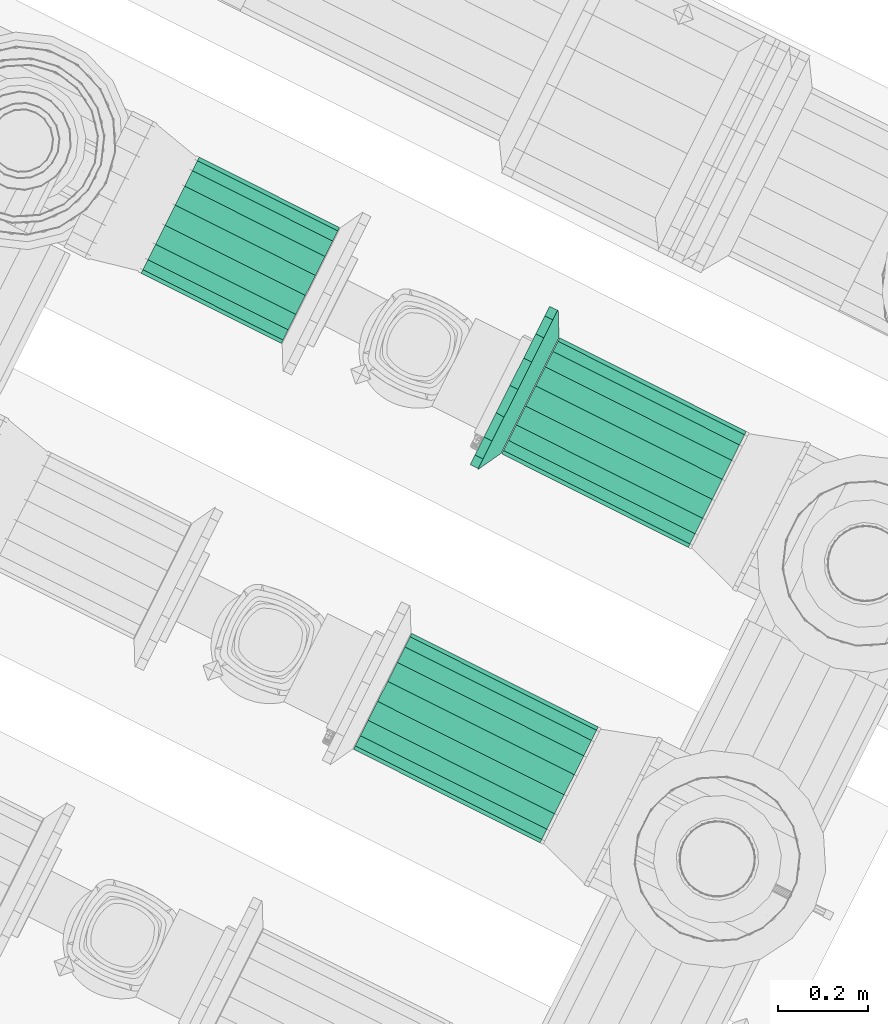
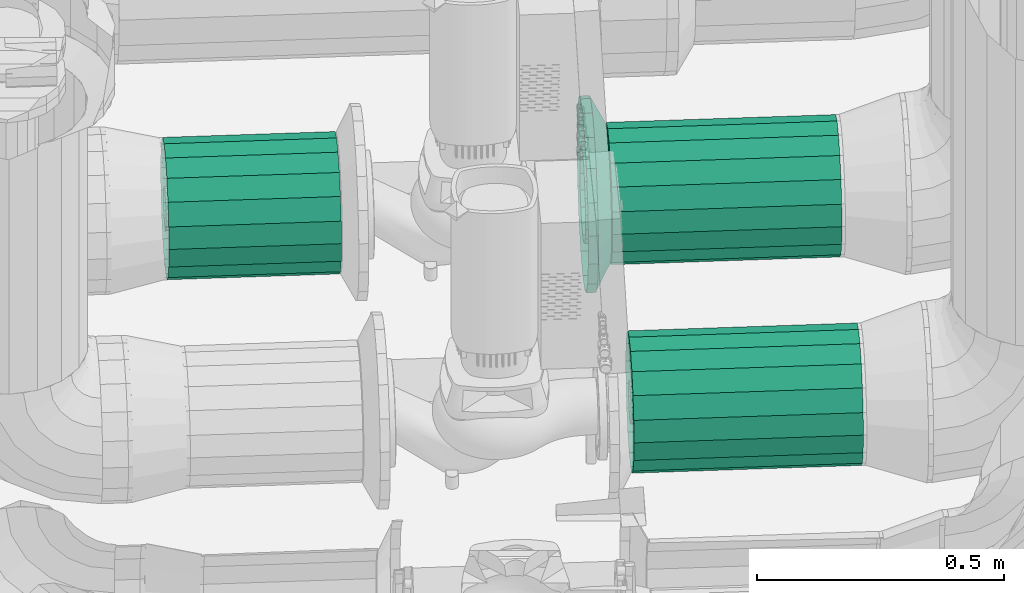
# One storey, part 111 of 152: 3 flow segments, 1 flow fitting.
"""IFC2X3 building model written with IfcOpenShell, lengths in metres."""

from ifc_helpers import new_model, si_unit, derived_unit, direction, frame, origin, place, context, subcontext, project, spatial, face_set, surface_model, source, transform, mapped, material, type_object, type_shapes, element, save


model = new_model("IFC2X3")

# Units and contexts
model_context = context("Model", 3, precision=5.2338327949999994e-05, world=origin(), true_north=direction((0.0, 1.0)))
body_context = subcontext(model_context, "Body", "Model", "MODEL_VIEW")
ifc_project = project(units=[si_unit("LENGTHUNIT", "METRE"), si_unit("AREAUNIT", "SQUARE_METRE"), si_unit("VOLUMEUNIT", "CUBIC_METRE"), si_unit("MASSUNIT", "GRAM", prefix="KILO"), si_unit("PLANEANGLEUNIT", "RADIAN"), derived_unit("THERMALTRANSMITTANCEUNIT", [(si_unit("MASSUNIT", "GRAM", prefix="KILO"), 1), (si_unit("THERMODYNAMICTEMPERATUREUNIT", "KELVIN"), -1), (si_unit("TIMEUNIT", "SECOND"), -3)])], contexts=[model_context])

# Site, building, storey
site_placement = place(None, frame((0.0, 0.0, 0.0), z_axis=(0.0, 0.0, 1.0), x_axis=(0.8939966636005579, -0.4480736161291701, 0.0)))
site = spatial("IfcSite", under=ifc_project, at=site_placement, Name="Default", CompositionType="ELEMENT")
building_placement = place(site_placement, origin())
building = spatial("IfcBuilding", under=site, at=building_placement, CompositionType="ELEMENT")
storey_placement = place(building_placement, frame((0.0, 0.0, 2.7499999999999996)))
storey = spatial("IfcBuildingStorey", under=building, at=storey_placement, Name="1. Obergeschoss", CompositionType="ELEMENT", Elevation=2.7499999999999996)

# Flow segments
ifc_material_1 = material(Name="IfcSurfaceStyle #9317")
distribution_element_type_1 = type_object("IfcDistributionElementType", Name="Stahlrohr nach DIN 2448 221398:Stahlrohr nach DIN 2448 221398", material=ifc_material_1)
shared_shape_1 = source(origin(), body_context, "Body", "SurfaceModel", [
    surface_model("IfcFaceBasedSurfaceModel", [(11.356814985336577, 6.547298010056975, 3.325154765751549), (11.356814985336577, 6.549978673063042, 3.3403575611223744), (10.892519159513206, 6.549978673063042, 3.3403575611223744), (10.892519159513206, 6.547298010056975, 3.325154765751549), (11.356814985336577, 6.557697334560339, 3.3537266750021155), (10.892519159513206, 6.557697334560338, 3.353726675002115), (11.356814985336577, 6.569523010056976, 3.363649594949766), (10.892519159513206, 6.569523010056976, 3.363649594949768), (11.356814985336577, 6.584029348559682, 3.368929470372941), (10.892519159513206, 6.58402934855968, 3.368929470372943), (11.356814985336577, 6.599466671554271, 3.36892947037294), (10.892519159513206, 6.5994666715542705, 3.3689294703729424), (11.356814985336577, 6.613973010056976, 3.363649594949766), (10.892519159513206, 6.613973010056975, 3.3636495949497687), (11.356814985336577, 6.6257986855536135, 3.3537266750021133), (10.892519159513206, 6.6257986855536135, 3.353726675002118), (11.356814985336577, 6.633517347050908, 3.340357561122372), (10.892519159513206, 6.633517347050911, 3.340357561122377), (11.356814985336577, 6.636198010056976, 3.3251547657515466), (10.892519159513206, 6.636198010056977, 3.3251547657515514), (11.356814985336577, 6.633517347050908, 3.309951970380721), (10.892519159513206, 6.633517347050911, 3.309951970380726), (11.356814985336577, 6.625798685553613, 3.29658285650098), (10.892519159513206, 6.625798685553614, 3.2965828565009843), (11.356814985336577, 6.613973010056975, 3.2866599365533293), (10.892519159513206, 6.613973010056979, 3.2866599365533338), (11.356814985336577, 6.599466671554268, 3.2813800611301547), (10.892519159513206, 6.599466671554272, 3.2813800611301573), (11.356814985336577, 6.584029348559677, 3.2813800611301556), (10.892519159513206, 6.584029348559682, 3.281380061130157), (11.356814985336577, 6.569523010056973, 3.28665993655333), (10.892519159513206, 6.569523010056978, 3.286659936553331), (11.356814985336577, 6.557697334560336, 3.2965828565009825), (10.892519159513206, 6.557697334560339, 3.2965828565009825), (11.356814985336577, 6.549978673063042, 3.309951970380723), (10.892519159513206, 6.549978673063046, 3.309951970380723), (11.356814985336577, 6.447298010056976, 3.325154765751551), (11.356814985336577, 6.456009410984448, 3.374559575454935), (10.892519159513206, 6.456009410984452, 3.374559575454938), (10.892519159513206, 6.447298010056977, 3.3251547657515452), (11.356814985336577, 6.481092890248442, 3.41800543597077), (10.892519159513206, 6.481092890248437, 3.418005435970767), (11.356814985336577, 6.519523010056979, 3.4502521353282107), (10.892519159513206, 6.519523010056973, 3.450252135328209), (11.356814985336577, 6.56666453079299, 3.467410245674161), (10.892519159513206, 6.566664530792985, 3.4674102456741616), (11.356814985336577, 6.616831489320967, 3.4674102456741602), (10.892519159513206, 6.616831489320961, 3.4674102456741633), (11.356814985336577, 6.663973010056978, 3.4502521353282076), (10.892519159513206, 6.6639730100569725, 3.450252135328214), (11.356814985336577, 6.702403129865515, 3.4180054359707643), (10.892519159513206, 6.702403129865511, 3.4180054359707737), (11.356814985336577, 6.727486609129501, 3.3745595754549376), (10.892519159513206, 6.7274866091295, 3.374559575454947), (11.356814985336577, 6.736198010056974, 3.3251547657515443), (10.892519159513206, 6.736198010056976, 3.3251547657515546), (11.356814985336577, 6.727486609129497, 3.275749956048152), (10.892519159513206, 6.7274866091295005, 3.275749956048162), (11.356814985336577, 6.702403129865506, 3.2323040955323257), (10.892519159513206, 6.702403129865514, 3.2323040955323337), (11.356814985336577, 6.663973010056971, 3.2000573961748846), (10.892519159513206, 6.663973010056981, 3.2000573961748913), (11.356814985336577, 6.616831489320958, 3.1828992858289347), (10.892519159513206, 6.616831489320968, 3.1828992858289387), (11.356814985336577, 6.566664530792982, 3.182899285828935), (10.892519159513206, 6.566664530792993, 3.182899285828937), (11.356814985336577, 6.519523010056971, 3.2000573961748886), (10.892519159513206, 6.5195230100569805, 3.2000573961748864), (11.356814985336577, 6.481092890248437, 3.2323040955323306), (10.892519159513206, 6.481092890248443, 3.232304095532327), (11.356814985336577, 6.456009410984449, 3.275749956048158), (10.892519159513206, 6.456009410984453, 3.2757499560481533)], [face_set([[[0, 1, 2, 3]], [[1, 4, 5, 2]], [[4, 6, 7, 5]], [[6, 8, 9, 7]], [[8, 10, 11, 9]], [[10, 12, 13, 11]], [[12, 14, 15, 13]], [[14, 16, 17, 15]], [[16, 18, 19, 17]], [[18, 20, 21, 19]], [[20, 22, 23, 21]], [[22, 24, 25, 23]], [[24, 26, 27, 25]], [[26, 28, 29, 27]], [[28, 30, 31, 29]], [[30, 32, 33, 31]], [[32, 34, 35, 33]], [[34, 0, 3, 35]], [[36, 37, 38, 39]], [[37, 40, 41, 38]], [[40, 42, 43, 41]], [[42, 44, 45, 43]], [[44, 46, 47, 45]], [[46, 48, 49, 47]], [[48, 50, 51, 49]], [[50, 52, 53, 51]], [[52, 54, 55, 53]], [[54, 56, 57, 55]], [[56, 58, 59, 57]], [[58, 60, 61, 59]], [[60, 62, 63, 61]], [[62, 64, 65, 63]], [[64, 66, 67, 65]], [[66, 68, 69, 67]], [[68, 70, 71, 69]], [[70, 36, 39, 71]]])]),
])
type_shapes(distribution_element_type_1, [shared_shape_1])
flow_segment_1_placement = place(storey_placement, frame((0.0, 0.0, -2.7499999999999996)))
element("IfcFlowSegment", 1, at=flow_segment_1_placement, inside=storey, type_object=distribution_element_type_1, material=ifc_material_1, Name="Stahlrohr nach DIN 2448", ObjectType="Stahlrohr nach DIN 2448", context=body_context, shape_type="MappedRepresentation", body=[
    mapped(shared_shape_1, transform((0.0, 0.0, 0.0), scale=1.0)),
])
distribution_element_type_2 = type_object("IfcDistributionElementType", Name="Stahlrohr nach DIN 2448 221448:Stahlrohr nach DIN 2448 221448", material=ifc_material_1)
shared_shape_2 = source(origin(), body_context, "Body", "SurfaceModel", [
    surface_model("IfcFaceBasedSurfaceModel", [(9.994770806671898, 7.371658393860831, 3.325154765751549), (9.994770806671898, 7.368977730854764, 3.3403575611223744), (10.343925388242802, 7.368977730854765, 3.3403575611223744), (10.343925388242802, 7.371658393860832, 3.325154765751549), (9.994770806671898, 7.361259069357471, 3.3537266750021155), (10.343925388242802, 7.361259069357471, 3.3537266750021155), (9.994770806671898, 7.349433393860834, 3.3636495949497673), (10.343925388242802, 7.349433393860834, 3.3636495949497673), (9.994770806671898, 7.334927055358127, 3.368929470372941), (10.343925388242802, 7.334927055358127, 3.368929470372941), (9.994770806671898, 7.319489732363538, 3.368929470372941), (10.343925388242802, 7.319489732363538, 3.368929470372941), (9.994770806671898, 7.304983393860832, 3.3636495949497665), (10.343925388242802, 7.304983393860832, 3.3636495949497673), (9.994770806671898, 7.293157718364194, 3.3537266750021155), (10.343925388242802, 7.293157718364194, 3.3537266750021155), (9.994770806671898, 7.2854390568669, 3.3403575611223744), (10.343925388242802, 7.2854390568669, 3.3403575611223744), (9.994770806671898, 7.282758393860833, 3.325154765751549), (10.343925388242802, 7.282758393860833, 3.325154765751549), (9.994770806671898, 7.285439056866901, 3.3099519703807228), (10.343925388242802, 7.2854390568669, 3.309951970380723), (9.994770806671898, 7.293157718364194, 3.296582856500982), (10.343925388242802, 7.293157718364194, 3.296582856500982), (9.994770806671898, 7.304983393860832, 3.2866599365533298), (10.343925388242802, 7.304983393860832, 3.2866599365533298), (9.994770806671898, 7.319489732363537, 3.2813800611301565), (10.343925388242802, 7.319489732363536, 3.281380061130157), (9.994770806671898, 7.334927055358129, 3.2813800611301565), (10.343925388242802, 7.334927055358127, 3.2813800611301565), (9.994770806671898, 7.349433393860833, 3.28665993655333), (10.343925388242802, 7.349433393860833, 3.28665993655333), (9.994770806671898, 7.361259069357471, 3.296582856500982), (10.343925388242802, 7.361259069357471, 3.296582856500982), (9.994770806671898, 7.368977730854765, 3.3099519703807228), (10.343925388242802, 7.368977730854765, 3.3099519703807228), (9.994770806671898, 7.471658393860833, 3.325154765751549), (9.994770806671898, 7.46294699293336, 3.3745595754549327), (10.343925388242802, 7.4629469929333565, 3.3745595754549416), (10.343925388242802, 7.471658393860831, 3.325154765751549), (9.994770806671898, 7.437863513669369, 3.4180054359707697), (10.343925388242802, 7.437863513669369, 3.4180054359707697), (9.994770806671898, 7.399433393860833, 3.4502521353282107), (10.343925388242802, 7.399433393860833, 3.4502521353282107), (9.994770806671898, 7.3522918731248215, 3.4674102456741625), (10.343925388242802, 7.3522918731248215, 3.4674102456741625), (9.994770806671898, 7.302124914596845, 3.4674102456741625), (10.343925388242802, 7.302124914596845, 3.4674102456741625), (9.994770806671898, 7.254983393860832, 3.4502521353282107), (10.343925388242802, 7.254983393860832, 3.4502521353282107), (9.994770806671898, 7.216553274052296, 3.4180054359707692), (10.343925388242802, 7.216553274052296, 3.4180054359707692), (9.994770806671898, 7.191469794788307, 3.3745595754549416), (10.343925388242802, 7.191469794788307, 3.3745595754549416), (9.994770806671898, 7.182758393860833, 3.325154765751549), (10.343925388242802, 7.182758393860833, 3.325154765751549), (9.994770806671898, 7.191469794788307, 3.2757499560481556), (10.343925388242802, 7.191469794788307, 3.2757499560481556), (9.994770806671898, 7.216553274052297, 3.232304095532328), (10.343925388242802, 7.216553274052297, 3.232304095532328), (9.994770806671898, 7.254983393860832, 3.200057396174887), (10.343925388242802, 7.254983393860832, 3.200057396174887), (9.994770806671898, 7.3021249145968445, 3.182899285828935), (10.343925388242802, 7.3021249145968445, 3.182899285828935), (9.994770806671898, 7.352291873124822, 3.182899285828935), (10.343925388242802, 7.352291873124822, 3.182899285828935), (9.994770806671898, 7.399433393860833, 3.200057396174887), (10.343925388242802, 7.399433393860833, 3.200057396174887), (9.994770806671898, 7.43786351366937, 3.232304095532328), (10.343925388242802, 7.43786351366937, 3.232304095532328), (9.994770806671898, 7.462946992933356, 3.2757499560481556), (10.343925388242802, 7.462946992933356, 3.2757499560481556)], [face_set([[[0, 1, 2, 3]], [[1, 4, 5, 2]], [[4, 6, 7, 5]], [[6, 8, 9, 7]], [[8, 10, 11, 9]], [[10, 12, 13, 11]], [[12, 14, 15, 13]], [[14, 16, 17, 15]], [[16, 18, 19, 17]], [[18, 20, 21, 19]], [[20, 22, 23, 21]], [[22, 24, 25, 23]], [[24, 26, 27, 25]], [[26, 28, 29, 27]], [[28, 30, 31, 29]], [[30, 32, 33, 31]], [[32, 34, 35, 33]], [[34, 0, 3, 35]], [[36, 37, 38, 39]], [[37, 40, 41, 38]], [[40, 42, 43, 41]], [[42, 44, 45, 43]], [[44, 46, 47, 45]], [[46, 48, 49, 47]], [[48, 50, 51, 49]], [[50, 52, 53, 51]], [[52, 54, 55, 53]], [[54, 56, 57, 55]], [[56, 58, 59, 57]], [[58, 60, 61, 59]], [[60, 62, 63, 61]], [[62, 64, 65, 63]], [[64, 66, 67, 65]], [[66, 68, 69, 67]], [[68, 70, 71, 69]], [[70, 36, 39, 71]]])]),
])
type_shapes(distribution_element_type_2, [shared_shape_2])
flow_segment_2_placement = place(storey_placement, frame((0.0, 0.0, -2.7499999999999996)))
element("IfcFlowSegment", 2, at=flow_segment_2_placement, inside=storey, type_object=distribution_element_type_2, material=ifc_material_1, Name="Stahlrohr nach DIN 2448", ObjectType="Stahlrohr nach DIN 2448", context=body_context, shape_type="MappedRepresentation", body=[
    mapped(shared_shape_2, transform((0.0, 0.0, 0.0), scale=1.0)),
])

# Flow fitting
ifc_material_2 = material(Name="IfcSurfaceStyle #221345")
distribution_element_type_3 = type_object("IfcDistributionElementType", Name="Flansch 221586:Flansch 221586", material=ifc_material_2)
shared_shape_3 = source(origin(), body_context, "Body", "SurfaceModel", [
    surface_model("IfcFaceBasedSurfaceModel", [(10.840519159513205, 7.3272083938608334, 3.2251547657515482), (10.840519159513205, 7.361410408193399, 3.2311855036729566), (10.860519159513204, 7.361410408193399, 3.2311855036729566), (10.860519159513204, 7.3272083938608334, 3.2251547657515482), (10.840519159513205, 7.391487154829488, 3.2485503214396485), (10.860519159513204, 7.391487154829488, 3.2485503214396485), (10.840519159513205, 7.4138109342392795, 3.2751547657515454), (10.860519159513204, 7.4138109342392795, 3.2751547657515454), (10.840519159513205, 7.425689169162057, 3.3077899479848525), (10.860519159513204, 7.425689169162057, 3.3077899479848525), (10.840519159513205, 7.425689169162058, 3.3425195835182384), (10.860519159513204, 7.425689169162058, 3.3425195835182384), (10.840519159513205, 7.41381093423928, 3.375154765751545), (10.860519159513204, 7.41381093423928, 3.375154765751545), (10.840519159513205, 7.391487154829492, 3.401759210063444), (10.860519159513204, 7.391487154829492, 3.401759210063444), (10.840519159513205, 7.361410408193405, 3.4191240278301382), (10.860519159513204, 7.361410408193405, 3.4191240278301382), (10.840519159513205, 7.32720839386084, 3.4251547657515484), (10.860519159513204, 7.32720839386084, 3.4251547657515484), (10.840519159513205, 7.293006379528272, 3.419124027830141), (10.860519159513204, 7.293006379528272, 3.419124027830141), (10.840519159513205, 7.262929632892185, 3.4017592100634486), (10.860519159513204, 7.262929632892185, 3.4017592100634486), (10.840519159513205, 7.240605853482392, 3.375154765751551), (10.860519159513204, 7.240605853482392, 3.375154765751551), (10.840519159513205, 7.228727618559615, 3.342519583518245), (10.860519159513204, 7.228727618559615, 3.342519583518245), (10.840519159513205, 7.228727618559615, 3.307789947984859), (10.860519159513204, 7.228727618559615, 3.307789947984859), (10.840519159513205, 7.240605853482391, 3.2751547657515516), (10.860519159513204, 7.240605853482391, 3.2751547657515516), (10.840519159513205, 7.262929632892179, 3.248550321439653), (10.860519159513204, 7.262929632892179, 3.248550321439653), (10.840519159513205, 7.293006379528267, 3.231185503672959), (10.860519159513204, 7.293006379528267, 3.231185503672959), (10.860519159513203, 7.327208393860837, 3.325154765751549), (10.860519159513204, 7.274708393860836, 3.3251547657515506), (10.860519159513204, 7.277874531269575, 3.3071987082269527), (10.890519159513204, 7.285439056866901, 3.3099519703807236), (10.890519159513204, 7.282758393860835, 3.3251547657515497), (10.860519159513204, 7.286991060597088, 3.2914084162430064), (10.890519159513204, 7.293157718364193, 3.2965828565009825), (10.860519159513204, 7.300958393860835, 3.279688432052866), (10.890519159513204, 7.304983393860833, 3.28665993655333), (10.860519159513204, 7.318091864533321, 3.273452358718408), (10.890519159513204, 7.3194897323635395, 3.2813800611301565), (10.860519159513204, 7.3363249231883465, 3.273452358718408), (10.890519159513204, 7.33492705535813, 3.2813800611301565), (10.860519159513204, 7.353458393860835, 3.2796884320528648), (10.890519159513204, 7.349433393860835, 3.2866599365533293), (10.860519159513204, 7.367425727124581, 3.2914084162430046), (10.890519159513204, 7.361259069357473, 3.2965828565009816), (10.860519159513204, 7.376542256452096, 3.30719870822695), (10.890519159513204, 7.368977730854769, 3.309951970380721), (10.860519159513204, 7.379708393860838, 3.3251547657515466), (10.890519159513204, 7.3716583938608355, 3.3251547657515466), (10.860519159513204, 7.376542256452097, 3.343110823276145), (10.890519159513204, 7.36897773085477, 3.3403575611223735), (10.860519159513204, 7.367425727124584, 3.3589011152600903), (10.890519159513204, 7.361259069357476, 3.3537266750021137), (10.860519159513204, 7.353458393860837, 3.37062109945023), (10.890519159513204, 7.349433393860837, 3.3636495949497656), (10.860519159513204, 7.33632492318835, 3.376857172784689), (10.890519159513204, 7.334927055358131, 3.368929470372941), (10.860519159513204, 7.318091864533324, 3.3768571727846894), (10.890519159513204, 7.319489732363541, 3.368929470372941), (10.860519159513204, 7.300958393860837, 3.370621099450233), (10.890519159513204, 7.304983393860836, 3.363649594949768), (10.860519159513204, 7.286991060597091, 3.358901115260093), (10.890519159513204, 7.293157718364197, 3.353726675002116), (10.860519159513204, 7.2778745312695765, 3.3431108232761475), (10.890519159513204, 7.2854390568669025, 3.3403575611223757), (10.840519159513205, 7.327208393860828, 3.125154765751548), (10.840519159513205, 7.395612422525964, 3.137216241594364), (10.860519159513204, 7.395612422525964, 3.137216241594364), (10.860519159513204, 7.327208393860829, 3.125154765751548), (10.840519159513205, 7.455765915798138, 3.1719458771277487), (10.860519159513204, 7.455765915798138, 3.1719458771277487), (10.840519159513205, 7.50041347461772, 3.2251547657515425), (10.860519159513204, 7.50041347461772, 3.2251547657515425), (10.840519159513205, 7.524169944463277, 3.290425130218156), (10.860519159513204, 7.524169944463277, 3.290425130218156), (10.840519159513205, 7.524169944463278, 3.359884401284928), (10.860519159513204, 7.524169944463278, 3.359884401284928), (10.840519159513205, 7.500413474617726, 3.4251547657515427), (10.860519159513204, 7.500413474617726, 3.4251547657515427), (10.840519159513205, 7.455765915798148, 3.47836365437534), (10.860519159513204, 7.455765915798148, 3.47836365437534), (10.840519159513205, 7.395612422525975, 3.5130932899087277), (10.860519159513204, 7.395612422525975, 3.5130932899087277), (10.840519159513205, 7.327208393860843, 3.525154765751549), (10.860519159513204, 7.327208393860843, 3.525154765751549), (10.840519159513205, 7.258804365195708, 3.5130932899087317), (10.860519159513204, 7.258804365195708, 3.5130932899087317), (10.840519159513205, 7.198650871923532, 3.478363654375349), (10.860519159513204, 7.198650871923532, 3.478363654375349), (10.840519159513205, 7.154003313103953, 3.4251547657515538), (10.860519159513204, 7.154003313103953, 3.4251547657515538), (10.840519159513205, 7.130246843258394, 3.359884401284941), (10.860519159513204, 7.130246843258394, 3.359884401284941), (10.840519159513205, 7.130246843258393, 3.290425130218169), (10.860519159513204, 7.130246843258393, 3.290425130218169), (10.840519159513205, 7.154003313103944, 3.225154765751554), (10.860519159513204, 7.154003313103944, 3.225154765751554), (10.840519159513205, 7.198650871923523, 3.1719458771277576), (10.860519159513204, 7.198650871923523, 3.1719458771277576), (10.840519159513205, 7.258804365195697, 3.137216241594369), (10.860519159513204, 7.258804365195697, 3.137216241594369), (10.860519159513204, 7.127208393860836, 3.3251547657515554), (10.860519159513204, 7.139269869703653, 3.2567507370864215), (10.890519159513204, 7.19146979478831, 3.275749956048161), (10.890519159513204, 7.182758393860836, 3.3251547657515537), (10.860519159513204, 7.173999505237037, 3.1965972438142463), (10.890519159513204, 7.216553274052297, 3.2323040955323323), (10.860519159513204, 7.22720839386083, 3.151949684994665), (10.890519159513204, 7.25498339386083, 3.200057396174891), (10.860519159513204, 7.292478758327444, 3.128193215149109), (10.890519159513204, 7.302124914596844, 3.1828992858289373), (10.860519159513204, 7.361938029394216, 3.128193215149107), (10.890519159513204, 7.352291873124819, 3.182899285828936), (10.860519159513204, 7.42720839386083, 3.151949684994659), (10.890519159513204, 7.399433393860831, 3.200057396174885), (10.860519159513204, 7.480417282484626, 3.196597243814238), (10.890519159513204, 7.4378635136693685, 3.2323040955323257), (10.860519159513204, 7.515146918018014, 3.256750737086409), (10.890519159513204, 7.4629469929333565, 3.275749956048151), (10.860519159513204, 7.527208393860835, 3.325154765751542), (10.890519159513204, 7.471658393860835, 3.325154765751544), (10.860519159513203, 7.515146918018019, 3.3935587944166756), (10.890519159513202, 7.462946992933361, 3.374559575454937), (10.860519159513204, 7.480417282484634, 3.4537122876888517), (10.890519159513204, 7.437863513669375, 3.418005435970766), (10.860519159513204, 7.42720839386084, 3.498359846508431), (10.890519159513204, 7.399433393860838, 3.4502521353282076), (10.860519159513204, 7.361938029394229, 3.5221163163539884), (10.890519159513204, 7.352291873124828, 3.4674102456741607), (10.860519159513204, 7.292478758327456, 3.5221163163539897), (10.890519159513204, 7.3021249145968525, 3.4674102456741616), (10.860519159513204, 7.227208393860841, 3.4983598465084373), (10.890519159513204, 7.254983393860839, 3.4502521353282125), (10.860519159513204, 7.173999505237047, 3.453712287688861), (10.890519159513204, 7.216553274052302, 3.4180054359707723), (10.860519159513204, 7.139269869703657, 3.3935587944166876), (10.890519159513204, 7.191469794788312, 3.3745595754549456)], [face_set([[[0, 1, 2, 3]], [[1, 4, 5, 2]], [[4, 6, 7, 5]], [[6, 8, 9, 7]], [[8, 10, 11, 9]], [[10, 12, 13, 11]], [[12, 14, 15, 13]], [[14, 16, 17, 15]], [[16, 18, 19, 17]], [[18, 20, 21, 19]], [[20, 22, 23, 21]], [[22, 24, 25, 23]], [[24, 26, 27, 25]], [[26, 28, 29, 27]], [[28, 30, 31, 29]], [[30, 32, 33, 31]], [[32, 34, 35, 33]], [[34, 0, 3, 35]], [[36, 35, 3]], [[36, 33, 35]], [[36, 31, 33]], [[36, 29, 31]], [[36, 27, 29]], [[36, 25, 27]], [[36, 23, 25]], [[36, 21, 23]], [[36, 19, 21]], [[36, 17, 19]], [[36, 15, 17]], [[36, 13, 15]], [[36, 11, 13]], [[36, 9, 11]], [[36, 7, 9]], [[36, 5, 7]], [[36, 2, 5]], [[36, 3, 2]], [[37, 38, 39, 40]], [[38, 41, 42, 39]], [[41, 43, 44, 42]], [[43, 45, 46, 44]], [[45, 47, 48, 46]], [[47, 49, 50, 48]], [[49, 51, 52, 50]], [[51, 53, 54, 52]], [[53, 55, 56, 54]], [[55, 57, 58, 56]], [[57, 59, 60, 58]], [[59, 61, 62, 60]], [[61, 63, 64, 62]], [[63, 65, 66, 64]], [[65, 67, 68, 66]], [[67, 69, 70, 68]], [[69, 71, 72, 70]], [[71, 37, 40, 72]], [[73, 74, 75, 76]], [[74, 77, 78, 75]], [[77, 79, 80, 78]], [[79, 81, 82, 80]], [[81, 83, 84, 82]], [[83, 85, 86, 84]], [[85, 87, 88, 86]], [[87, 89, 90, 88]], [[89, 91, 92, 90]], [[91, 93, 94, 92]], [[93, 95, 96, 94]], [[95, 97, 98, 96]], [[97, 99, 100, 98]], [[99, 101, 102, 100]], [[101, 103, 104, 102]], [[103, 105, 106, 104]], [[105, 107, 108, 106]], [[107, 73, 76, 108]], [[109, 110, 111, 112]], [[110, 113, 114, 111]], [[113, 115, 116, 114]], [[115, 117, 118, 116]], [[117, 119, 120, 118]], [[119, 121, 122, 120]], [[121, 123, 124, 122]], [[123, 125, 126, 124]], [[125, 127, 128, 126]], [[127, 129, 130, 128]], [[129, 131, 132, 130]], [[131, 133, 134, 132]], [[133, 135, 136, 134]], [[135, 137, 138, 136]], [[137, 139, 140, 138]], [[139, 141, 142, 140]], [[141, 143, 144, 142]], [[143, 109, 112, 144]]])]),
])
type_shapes(distribution_element_type_3, [shared_shape_3])
flow_fitting_placement = place(storey_placement, frame((0.0, 0.0, -2.7499999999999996)))
element("IfcFlowFitting", 3, at=flow_fitting_placement, inside=storey, type_object=distribution_element_type_3, material=ifc_material_2, Name="Flansch", ObjectType="Flansch", context=body_context, shape_type="MappedRepresentation", body=[
    mapped(shared_shape_3, transform((0.0, 0.0, 0.0), scale=1.0)),
])

# Flow segment
distribution_element_type_4 = type_object("IfcDistributionElementType", Name="Stahlrohr nach DIN 2448 221655:Stahlrohr nach DIN 2448 221655", material=ifc_material_1)
shared_shape_4 = source(origin(), body_context, "Body", "SurfaceModel", [
    surface_model("IfcFaceBasedSurfaceModel", [(11.356814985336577, 7.282758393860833, 3.325154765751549), (11.356814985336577, 7.285439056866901, 3.3403575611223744), (10.892519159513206, 7.285439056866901, 3.3403575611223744), (10.892519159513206, 7.282758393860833, 3.325154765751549), (11.356814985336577, 7.293157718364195, 3.353726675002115), (10.892519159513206, 7.293157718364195, 3.3537266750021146), (11.356814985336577, 7.304983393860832, 3.363649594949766), (10.892519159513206, 7.304983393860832, 3.363649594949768), (11.356814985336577, 7.319489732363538, 3.368929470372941), (10.892519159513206, 7.319489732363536, 3.368929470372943), (11.356814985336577, 7.334927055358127, 3.36892947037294), (10.892519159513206, 7.3349270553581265, 3.3689294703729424), (11.356814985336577, 7.349433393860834, 3.363649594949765), (10.892519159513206, 7.349433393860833, 3.3636495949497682), (11.356814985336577, 7.361259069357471, 3.3537266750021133), (10.892519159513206, 7.361259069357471, 3.353726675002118), (11.356814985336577, 7.368977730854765, 3.340357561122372), (10.892519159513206, 7.368977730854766, 3.340357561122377), (11.356814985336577, 7.371658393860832, 3.3251547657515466), (10.892519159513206, 7.371658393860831, 3.3251547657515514), (11.356814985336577, 7.368977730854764, 3.309951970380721), (10.892519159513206, 7.368977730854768, 3.309951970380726), (11.356814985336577, 7.361259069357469, 3.29658285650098), (10.892519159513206, 7.361259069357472, 3.2965828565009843), (11.356814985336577, 7.349433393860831, 3.286659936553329), (10.892519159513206, 7.349433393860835, 3.2866599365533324), (11.356814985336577, 7.334927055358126, 3.2813800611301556), (10.892519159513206, 7.33492705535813, 3.2813800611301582), (11.356814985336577, 7.319489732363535, 3.2813800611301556), (10.892519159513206, 7.3194897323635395, 3.281380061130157), (11.356814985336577, 7.304983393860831, 3.28665993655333), (10.892519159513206, 7.3049833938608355, 3.286659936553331), (11.356814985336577, 7.293157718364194, 3.2965828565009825), (10.892519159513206, 7.293157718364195, 3.296582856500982), (11.356814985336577, 7.285439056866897, 3.3099519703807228), (10.892519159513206, 7.285439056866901, 3.309951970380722), (11.356814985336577, 7.1827583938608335, 3.325154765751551), (11.356814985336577, 7.191469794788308, 3.374559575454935), (10.892519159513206, 7.191469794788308, 3.374559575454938), (10.892519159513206, 7.182758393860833, 3.3251547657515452), (11.356814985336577, 7.2165532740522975, 3.4180054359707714), (10.892519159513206, 7.216553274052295, 3.418005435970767), (11.356814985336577, 7.254983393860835, 3.4502521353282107), (10.892519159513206, 7.2549833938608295, 3.4502521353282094), (11.356814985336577, 7.302124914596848, 3.467410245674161), (10.892519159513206, 7.302124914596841, 3.4674102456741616), (11.356814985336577, 7.352291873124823, 3.4674102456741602), (10.892519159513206, 7.352291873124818, 3.4674102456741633), (11.356814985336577, 7.399433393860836, 3.4502521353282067), (10.892519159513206, 7.39943339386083, 3.450252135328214), (11.356814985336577, 7.437863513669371, 3.418005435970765), (10.892519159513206, 7.437863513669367, 3.418005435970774), (11.356814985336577, 7.462946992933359, 3.3745595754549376), (10.892519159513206, 7.462946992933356, 3.3745595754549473), (11.356814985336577, 7.47165839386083, 3.3251547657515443), (10.892519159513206, 7.471658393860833, 3.3251547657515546), (11.356814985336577, 7.462946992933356, 3.275749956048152), (10.892519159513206, 7.462946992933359, 3.2757499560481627), (11.356814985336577, 7.437863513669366, 3.232304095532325), (10.892519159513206, 7.43786351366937, 3.232304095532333), (11.356814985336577, 7.399433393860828, 3.2000573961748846), (10.892519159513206, 7.399433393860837, 3.200057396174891), (11.356814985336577, 7.352291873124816, 3.182899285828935), (10.892519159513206, 7.352291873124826, 3.1828992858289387), (11.356814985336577, 7.302124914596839, 3.182899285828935), (10.892519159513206, 7.302124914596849, 3.182899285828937), (11.356814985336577, 7.254983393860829, 3.2000573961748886), (10.892519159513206, 7.254983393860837, 3.200057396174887), (11.356814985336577, 7.216553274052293, 3.232304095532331), (10.892519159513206, 7.2165532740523, 3.232304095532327), (11.356814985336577, 7.191469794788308, 3.275749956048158), (10.892519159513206, 7.191469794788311, 3.2757499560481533)], [face_set([[[0, 1, 2, 3]], [[1, 4, 5, 2]], [[4, 6, 7, 5]], [[6, 8, 9, 7]], [[8, 10, 11, 9]], [[10, 12, 13, 11]], [[12, 14, 15, 13]], [[14, 16, 17, 15]], [[16, 18, 19, 17]], [[18, 20, 21, 19]], [[20, 22, 23, 21]], [[22, 24, 25, 23]], [[24, 26, 27, 25]], [[26, 28, 29, 27]], [[28, 30, 31, 29]], [[30, 32, 33, 31]], [[32, 34, 35, 33]], [[34, 0, 3, 35]], [[36, 37, 38, 39]], [[37, 40, 41, 38]], [[40, 42, 43, 41]], [[42, 44, 45, 43]], [[44, 46, 47, 45]], [[46, 48, 49, 47]], [[48, 50, 51, 49]], [[50, 52, 53, 51]], [[52, 54, 55, 53]], [[54, 56, 57, 55]], [[56, 58, 59, 57]], [[58, 60, 61, 59]], [[60, 62, 63, 61]], [[62, 64, 65, 63]], [[64, 66, 67, 65]], [[66, 68, 69, 67]], [[68, 70, 71, 69]], [[70, 36, 39, 71]]])]),
])
type_shapes(distribution_element_type_4, [shared_shape_4])
flow_segment_3_placement = place(storey_placement, frame((0.0, 0.0, -2.7499999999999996)))
element("IfcFlowSegment", 4, at=flow_segment_3_placement, inside=storey, type_object=distribution_element_type_4, material=ifc_material_1, Name="Stahlrohr nach DIN 2448", ObjectType="Stahlrohr nach DIN 2448", context=body_context, shape_type="MappedRepresentation", body=[
    mapped(shared_shape_4, transform((0.0, 0.0, 0.0), scale=1.0)),
])

save(model, "model.ifc")
